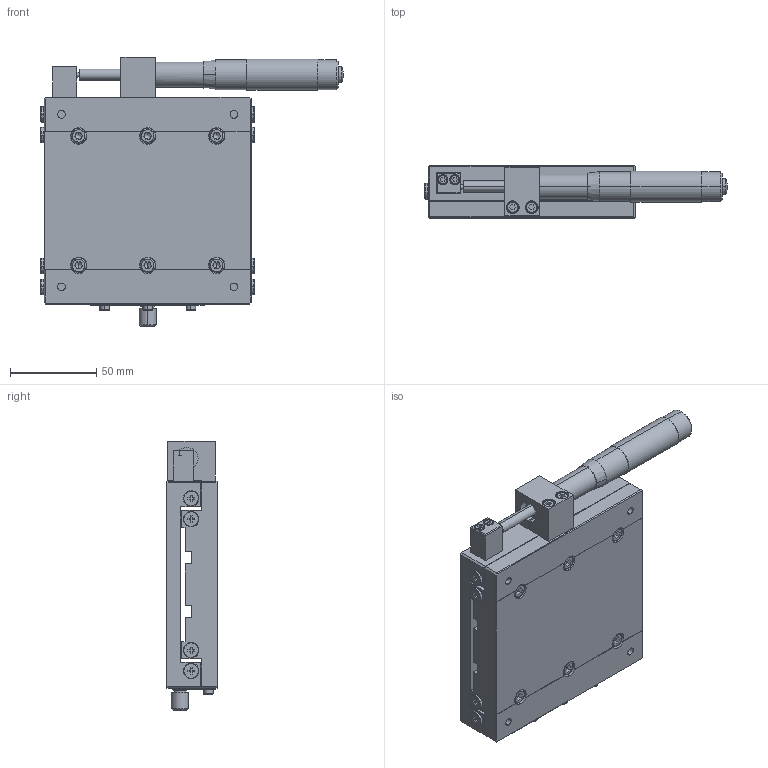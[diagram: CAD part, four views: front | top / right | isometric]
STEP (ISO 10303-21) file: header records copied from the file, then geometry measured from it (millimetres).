
FILE_DESCRIPTION (( 'STEP AP203' ), '1' );
FILE_NAME ('LX120-L.STEP', '2013-12-28T05:25:10', ( 'pengyu' ), ( '' ), 'SwSTEP 2.0', 'SolidWorks 2011', '' );
FILE_SCHEMA (( 'CONFIG_CONTROL_DESIGN' ));
Length unit declared in the file: millimetre
Products named in the file (4): LX120-L; MT50-1-1; L120L-2; L120L-1
Assembly tree (3 placements, depth 2):
  LX120-L
    MT50-1-1
    L120L-2
    L120L-1
Bounding box: 175.17 x 30 x 156 mm (x, y, z)
Volume: 425345.7 mm3; surface area: 108128.4 mm2
Topology: 3 solids, 10 shells, 816 faces, 2050 edges, 1300 vertices
Faces by surface type: plane 480, cylinder 198, bspline 74, cone 64
Entity records: 25852 total; most frequent: CARTESIAN_POINT 5894, DIRECTION 4114, ORIENTED_EDGE 4028, EDGE_CURVE 2014, AXIS2_PLACEMENT_3D 1434, VERTEX_POINT 1298, VECTOR 1246, LINE 1246
